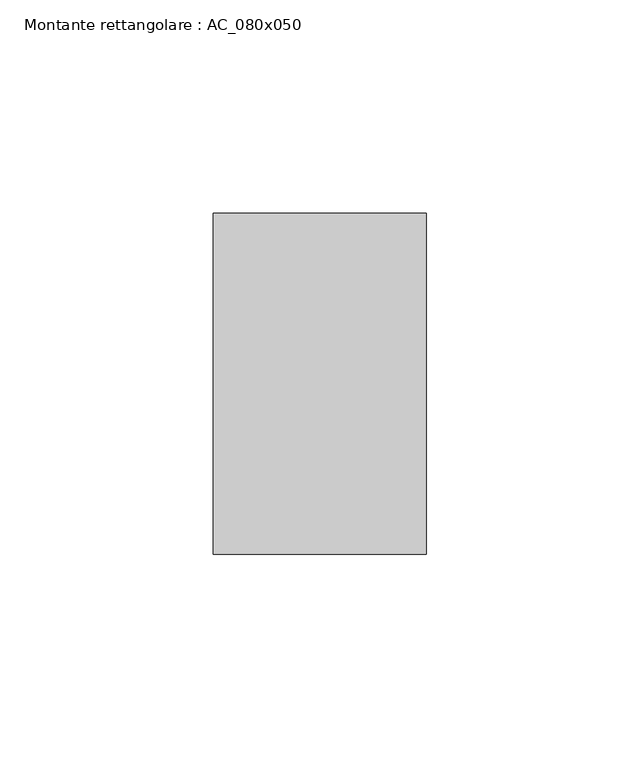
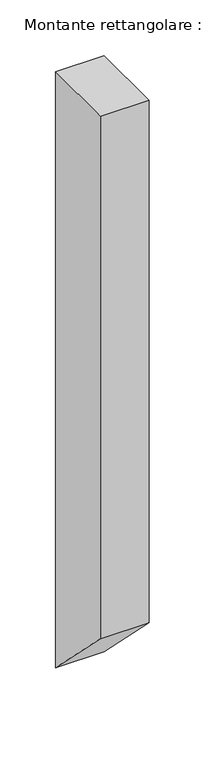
"""IFC4 building model written with IfcOpenShell, lengths in millimetres: member geometry, Montante rettangolare : AC_080x050."""

from ifc_helpers import new_model, si_unit, frame, origin, place, context, project, spatial, polyline, outline, extrude, source, transform, mapped, element, save


def montante_rettangolare_ac_080x050_753d6dd0(model_context):
    return source(origin(), model_context, "Body", "SweptSolid", [
        extrude(outline(polyline([(-40.0, 0.0), (40.0, 0.0), (40.0, -650.0), (-40.0, -570.0), (-40.0, 0.0)])), frame((-50.0, 0.0, 0.0), z_axis=(1.0, 0.0, 0.0), x_axis=(0.0, 1.0, 0.0)), (0.0, 0.0, 1.0), 50.0),
    ])


if __name__ == "__main__":
    model = new_model("IFC4")
    model_context = context("Model", 3, world=origin())
    ifc_project = project(units=[si_unit("LENGTHUNIT", "METRE", prefix="MILLI")], contexts=[model_context])
    site = spatial("IfcSite", under=ifc_project)
    building = spatial("IfcBuilding", under=site)
    placement = place(None, origin())
    montante_rettangolare_ac_080x050_shape = montante_rettangolare_ac_080x050_753d6dd0(model_context)
    element("IfcMember", 1, ObjectType="Montante rettangolare : AC_080x050", at=placement, inside=building, context=model_context, shape_type="MappedRepresentation", body=[
        mapped(montante_rettangolare_ac_080x050_shape, transform((0.0, 0.0, 0.0), x_axis=(1.0, 0.0, 0.0), y_axis=(0.0, 1.0, 0.0), z_axis=(0.0, 0.0, 1.0))),
    ])
    save(model, "model.ifc")
